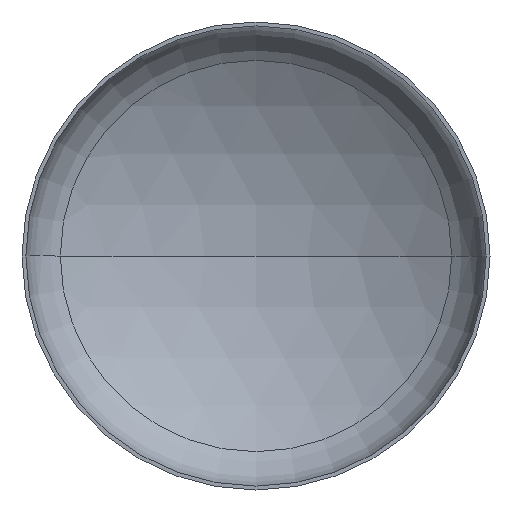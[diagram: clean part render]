
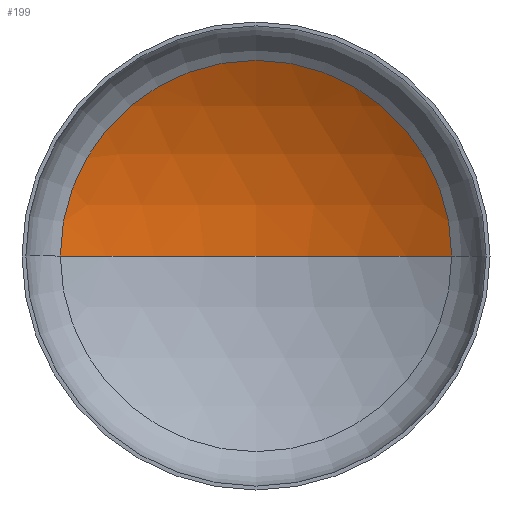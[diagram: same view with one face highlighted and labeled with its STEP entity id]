
A CAD part, front view. The second image highlights one B-rep face of the part: STEP entity #199.
In plain terms, the highlighted spherical face has radius 5600 mm.
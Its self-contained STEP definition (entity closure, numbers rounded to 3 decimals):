
#45 = VERTEX_POINT ( 'NONE', #322 ) ;
#47 = EDGE_CURVE ( 'NONE', #406, #150, #300, .T. ) ;
#49 = EDGE_CURVE ( 'NONE', #45, #406, #170, .T. ) ;
#51 = EDGE_CURVE ( 'NONE', #45, #150, #242, .T. ) ;
#78 = ORIENTED_EDGE ( 'NONE', *, *, #51, .F. ) ;
#85 = DIRECTION ( 'NONE',  ( 0., 0., -1. ) ) ;
#106 = SPHERICAL_SURFACE ( 'NONE', #259, 5600. ) ;
#127 = DIRECTION ( 'NONE',  ( -1., 0., 0. ) ) ;
#135 = EDGE_LOOP ( 'NONE', ( #78, #209, #198 ) ) ;
#150 = VERTEX_POINT ( 'NONE', #152 ) ;
#152 = CARTESIAN_POINT ( 'NONE',  ( -2926.372, 1040.806, 0. ) ) ;
#161 = DIRECTION ( 'NONE',  ( 0., 0., -1. ) ) ;
#170 = CIRCLE ( 'NONE', #342, 5600. ) ;
#177 = DIRECTION ( 'NONE',  ( -1., 0., 0. ) ) ;
#198 = ORIENTED_EDGE ( 'NONE', *, *, #47, .T. ) ;
#199 = ADVANCED_FACE ( 'NONE', ( #214 ), #106, .F. ) ;
#205 = DIRECTION ( 'NONE',  ( 1., 0., 0. ) ) ;
#209 = ORIENTED_EDGE ( 'NONE', *, *, #49, .T. ) ;
#214 = FACE_OUTER_BOUND ( 'NONE', #135, .T. ) ;
#242 = CIRCLE ( 'NONE', #358, 5600. ) ;
#259 = AXIS2_PLACEMENT_3D ( 'NONE', #383, #85, #127 ) ;
#281 = CARTESIAN_POINT ( 'NONE',  ( 0., -3733.746, 0. ) ) ;
#288 = DIRECTION ( 'NONE',  ( 0., 0., 1. ) ) ;
#290 = CARTESIAN_POINT ( 'NONE',  ( 0., -3733.746, 0. ) ) ;
#295 = DIRECTION ( 'NONE',  ( 1., 0., 0. ) ) ;
#300 = CIRCLE ( 'NONE', #330, 2926.372 ) ;
#303 = DIRECTION ( 'NONE',  ( 0., -1., 0. ) ) ;
#304 = CARTESIAN_POINT ( 'NONE',  ( 0., 1040.806, 0. ) ) ;
#322 = CARTESIAN_POINT ( 'NONE',  ( 0., 1866.254, 0. ) ) ;
#330 = AXIS2_PLACEMENT_3D ( 'NONE', #304, #303, #295 ) ;
#342 = AXIS2_PLACEMENT_3D ( 'NONE', #281, #161, #177 ) ;
#350 = CARTESIAN_POINT ( 'NONE',  ( 2926.372, 1040.806, 0. ) ) ;
#358 = AXIS2_PLACEMENT_3D ( 'NONE', #290, #288, #205 ) ;
#383 = CARTESIAN_POINT ( 'NONE',  ( 0., -3733.746, 0. ) ) ;
#406 = VERTEX_POINT ( 'NONE', #350 ) ;
